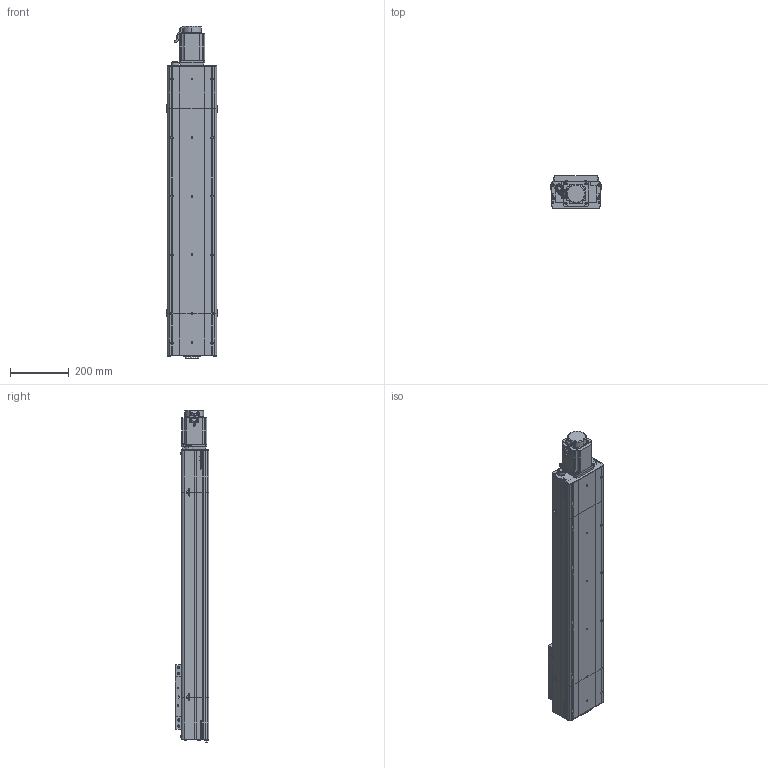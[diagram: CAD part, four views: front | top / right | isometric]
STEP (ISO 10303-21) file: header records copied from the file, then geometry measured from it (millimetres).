
FILE_DESCRIPTION (( 'STEP AP214' ), '1' );
FILE_NAME ('D17 CSH MD S700.STEP', '2010-06-29T14:11:47', ( 'Christophe Gaillard' ), ( 'SGA' ), 'SwSTEP 2.0', 'SolidWorks 2010', '' );
FILE_SCHEMA (( 'AUTOMOTIVE_DESIGN' ));
Length unit declared in the file: millimetre
Products named in the file (25): couvercle D17_Default; Corp D17 S700_Default; Corp Tail D17+100_Default; Plaque de bout D17_Default; Tail D17+100_Default; couvercle D17-700_Default; Corp L700_Default; Chariot D17_Default; chariot D17_Default; support chariot D17_Default; glissiere_Default; vis M5 L15_Default; plaque de serrage D17_Default; corps 90BLDC100A-640; Moteur motionking 90BLDC100A-640; Head D17 MD_Default; avant 90BLDC100A-640; D17 CSH MD S700; codeur 90BLDC100-640; couvercle D17 head_Default; Corp Head D17 MD_Default; plaque de serrage D17 head_Default; Plaque de bout D17 head_Default; Conecteur_Default; Conecteur2_Default
Assembly tree (44 placements, depth 4):
  D17 CSH MD S700
    Tail D17+100_Default
      Corp Tail D17+100_Default
      vis M5 L15_Default  x6
      couvercle D17_Default
      plaque de serrage D17_Default
      Plaque de bout D17_Default
    Chariot D17_Default
      vis M5 L15_Default  x8
      chariot D17_Default
      glissiere_Default
      support chariot D17_Default
    Head D17 MD_Default
      vis M5 L15_Default  x7
      couvercle D17 head_Default
      Plaque de bout D17 head_Default
      plaque de serrage D17 head_Default
      Moteur motionking 90BLDC100A-640
        Conecteur2_Default
        codeur 90BLDC100-640
        avant 90BLDC100A-640
        Conecteur_Default
        corps 90BLDC100A-640
      Corp Head D17 MD_Default
    Corp D17 S700_Default
      Corp L700_Default
      couvercle D17-700_Default
Bounding box: 172 x 114 x 1133 mm (x, y, z)
Volume: 7457667.8 mm3; surface area: 1336586.9 mm2
Topology: 81 solids, 81 shells, 2971 faces, 7538 edges, 4944 vertices
Faces by surface type: plane 1800, bspline 710, cylinder 366, torus 53, cone 42
Entity records: 143575 total; most frequent: CARTESIAN_POINT 78371, ORIENTED_EDGE 13072, DIRECTION 9294, EDGE_CURVE 6536, LINE 4456, VECTOR 4456, VERTEX_POINT 4344, EDGE_LOOP 2750
